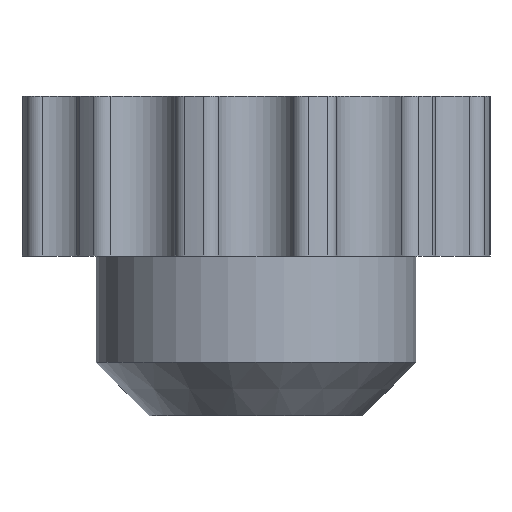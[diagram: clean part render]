
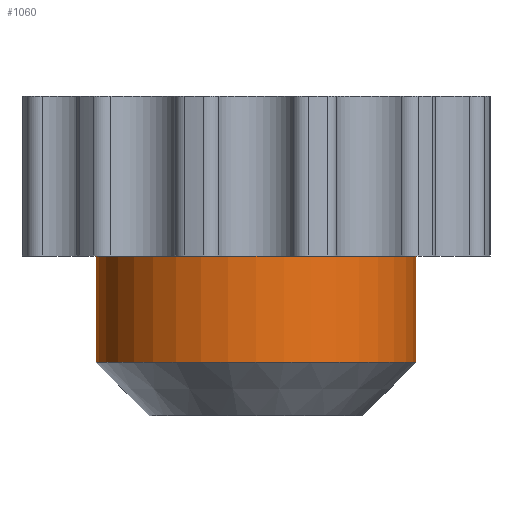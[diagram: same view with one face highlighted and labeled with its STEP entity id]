
A CAD part, front view. The second image highlights one B-rep face of the part: STEP entity #1060.
In plain terms, the highlighted cylindrical face has radius 6 mm (diameter 12 mm), a full revolution.
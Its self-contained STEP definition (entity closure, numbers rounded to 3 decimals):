
#157=CYLINDRICAL_SURFACE('',#1125,6.);
#208=FACE_BOUND('',#278,.T.);
#215=FACE_OUTER_BOUND('',#277,.T.);
#277=EDGE_LOOP('',(#726));
#278=EDGE_LOOP('',(#727));
#343=CIRCLE('',#1123,6.);
#345=CIRCLE('',#1126,6.);
#444=VERTEX_POINT('',#1678);
#446=VERTEX_POINT('',#1683);
#557=EDGE_CURVE('',#444,#444,#343,.T.);
#559=EDGE_CURVE('',#446,#446,#345,.T.);
#726=ORIENTED_EDGE('',*,*,#559,.F.);
#727=ORIENTED_EDGE('',*,*,#557,.F.);
#1060=ADVANCED_FACE('',(#215,#208),#157,.T.);
#1123=AXIS2_PLACEMENT_3D('',#1679,#1288,#1289);
#1125=AXIS2_PLACEMENT_3D('',#1682,#1292,#1293);
#1126=AXIS2_PLACEMENT_3D('',#1684,#1294,#1295);
#1288=DIRECTION('center_axis',(0.,0.,-1.));
#1289=DIRECTION('ref_axis',(1.,0.,0.));
#1292=DIRECTION('center_axis',(0.,0.,-1.));
#1293=DIRECTION('ref_axis',(1.,0.,0.));
#1294=DIRECTION('center_axis',(0.,0.,1.));
#1295=DIRECTION('ref_axis',(1.,0.,0.));
#1678=CARTESIAN_POINT('',(-6.,0.,-4.));
#1679=CARTESIAN_POINT('Origin',(0.,0.,-4.));
#1682=CARTESIAN_POINT('Origin',(0.,0.,0.));
#1683=CARTESIAN_POINT('',(-6.,0.,0.));
#1684=CARTESIAN_POINT('Origin',(0.,0.,0.));
